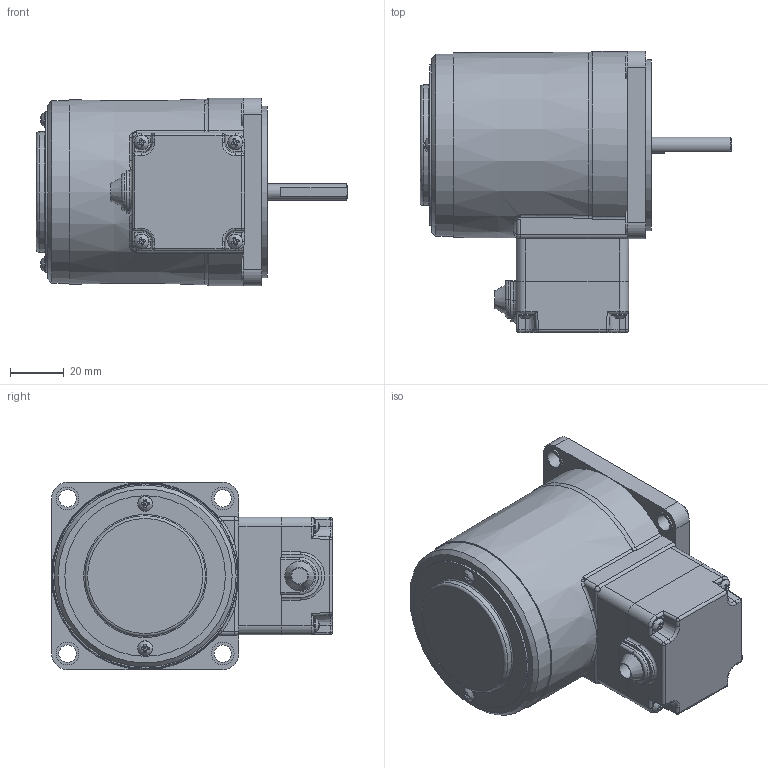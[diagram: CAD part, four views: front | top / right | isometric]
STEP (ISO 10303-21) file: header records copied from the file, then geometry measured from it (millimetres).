
FILE_DESCRIPTION(/* description */ (''),/* implementation_level */ '2;1');
FILE_NAME(/* name */ 'E:\도면작업\2016\0704) 미주향 SG 도면\3D MOTOR\TERMINAL BOX TYPE\REVERSIBLE TERMINAL BOX\SG7R15D_-T.stp',/* time_stamp */ '2017-01-24T08:32:47+09:00',/* author */ ('jy-jung'),/* organization */ (''),/* preprocessor_version */ 'ST-DEVELOPER v15.6',/* originating_system */ 'Autodesk Inventor 2015',/* authorisation */ '');
FILE_SCHEMA (('AUTOMOTIVE_DESIGN { 1 0 10303 214 3 1 1 }'));
Length unit declared in the file: millimetre
Products named in the file (1): 부품1
Bounding box: 116.3 x 105 x 70 mm (x, y, z)
Volume: 342955.2 mm3; surface area: 54632.5 mm2
Topology: 1 solids, 10 shells, 637 faces, 1627 edges, 1010 vertices
Faces by surface type: plane 321, cylinder 211, torus 45, bspline 24, cone 18, sphere 18
Full cylindrical faces by diameter (mm): 2.5 x2, 3 x6, 3.5 x10, 5.6 x6, 6 x2, 6.5 x4, 8 x1, 8.5 x4, 28 x1, 43 x1, 45 x1, 60 x1, 64 x1, 68 x1
Entity records: 20155 total; most frequent: CARTESIAN_POINT 4440, DIRECTION 3163, ORIENTED_EDGE 3052, EDGE_CURVE 1526, AXIS2_PLACEMENT_3D 1149, VERTEX_POINT 999, LINE 865, VECTOR 865
